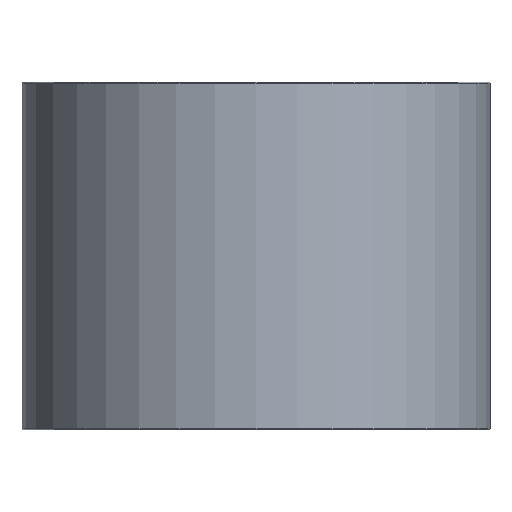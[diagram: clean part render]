
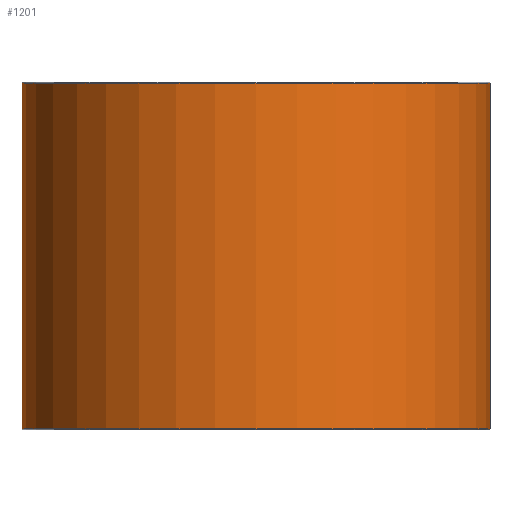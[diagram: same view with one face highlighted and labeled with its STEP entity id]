
A CAD part, front view. The second image highlights one B-rep face of the part: STEP entity #1201.
In plain terms, the highlighted cylindrical face has radius 37 mm (diameter 74 mm), a partial arc.
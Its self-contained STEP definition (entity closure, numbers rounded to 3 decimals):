
#66 = VERTEX_POINT('',#67);
#67 = CARTESIAN_POINT('',(-37.,0.,54.8));
#68 = VERTEX_POINT('',#69);
#69 = CARTESIAN_POINT('',(37.,0.,54.8));
#121 = VERTEX_POINT('',#122);
#122 = CARTESIAN_POINT('',(-37.,0.,0.2));
#130 = VERTEX_POINT('',#131);
#131 = CARTESIAN_POINT('',(37.,0.,0.2));
#197 = EDGE_CURVE('',#68,#130,#198,.T.);
#198 = LINE('',#199,#200);
#199 = CARTESIAN_POINT('',(37.,0.,55.));
#200 = VECTOR('',#201,1.);
#201 = DIRECTION('',(-0.,-0.,-1.));
#204 = EDGE_CURVE('',#66,#121,#205,.T.);
#205 = LINE('',#206,#207);
#206 = CARTESIAN_POINT('',(-37.,0.,55.));
#207 = VECTOR('',#208,1.);
#208 = DIRECTION('',(-0.,-0.,-1.));
#1201 = ADVANCED_FACE('',(#1202),#1220,.T.);
#1202 = FACE_BOUND('',#1203,.T.);
#1203 = EDGE_LOOP('',(#1204,#1205,#1212,#1213));
#1204 = ORIENTED_EDGE('',*,*,#197,.F.);
#1205 = ORIENTED_EDGE('',*,*,#1206,.T.);
#1206 = EDGE_CURVE('',#68,#66,#1207,.T.);
#1207 = CIRCLE('',#1208,37.);
#1208 = AXIS2_PLACEMENT_3D('',#1209,#1210,#1211);
#1209 = CARTESIAN_POINT('',(0.,0.,54.8));
#1210 = DIRECTION('',(0.,0.,-1.));
#1211 = DIRECTION('',(1.,0.,0.));
#1212 = ORIENTED_EDGE('',*,*,#204,.T.);
#1213 = ORIENTED_EDGE('',*,*,#1214,.T.);
#1214 = EDGE_CURVE('',#121,#130,#1215,.T.);
#1215 = CIRCLE('',#1216,37.);
#1216 = AXIS2_PLACEMENT_3D('',#1217,#1218,#1219);
#1217 = CARTESIAN_POINT('',(0.,0.,0.2));
#1218 = DIRECTION('',(0.,0.,1.));
#1219 = DIRECTION('',(1.,0.,-0.));
#1220 = CYLINDRICAL_SURFACE('',#1221,37.);
#1221 = AXIS2_PLACEMENT_3D('',#1222,#1223,#1224);
#1222 = CARTESIAN_POINT('',(0.,0.,55.));
#1223 = DIRECTION('',(-0.,-0.,-1.));
#1224 = DIRECTION('',(-1.,0.,0.));
